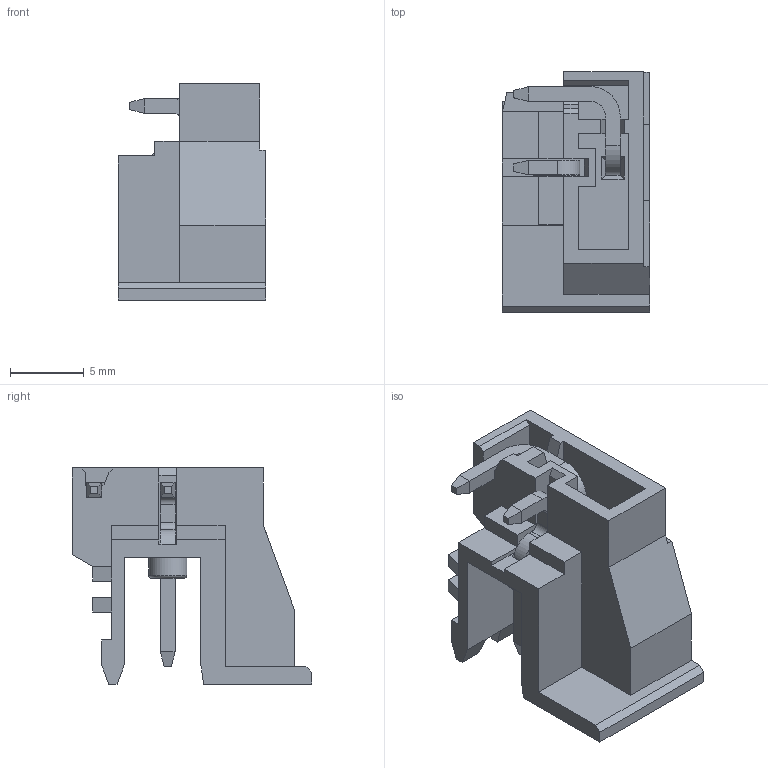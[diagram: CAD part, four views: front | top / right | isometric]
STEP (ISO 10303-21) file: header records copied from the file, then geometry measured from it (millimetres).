
FILE_DESCRIPTION(('FreeCAD Model'),'2;1');
FILE_NAME('Open CASCADE Shape Model','2023-04-26T12:04:49',('Author'),( ''),'Open CASCADE STEP processor 7.6','FreeCAD','Unknown');
FILE_SCHEMA(('AUTOMOTIVE_DESIGN { 1 0 10303 214 1 1 1 1 }'));
Length unit declared in the file: millimetre
Products named in the file (1): BR1702-PD
Bounding box: 10 x 16.3 x 14.7 mm (x, y, z)
Volume: 707 mm3; surface area: 1501.1 mm2
Topology: 1 solids, 2 shells, 198 faces, 521 edges, 330 vertices
Faces by surface type: bspline 198
Entity records: 13349 total; most frequent: CARTESIAN_POINT 6501, B_SPLINE_CURVE_WITH_KNOTS 1497, ORIENTED_EDGE 1042, PCURVE 1042, DEFINITIONAL_REPRESENTATION 1042, EDGE_CURVE 521, SURFACE_CURVE 521, VERTEX_POINT 330
